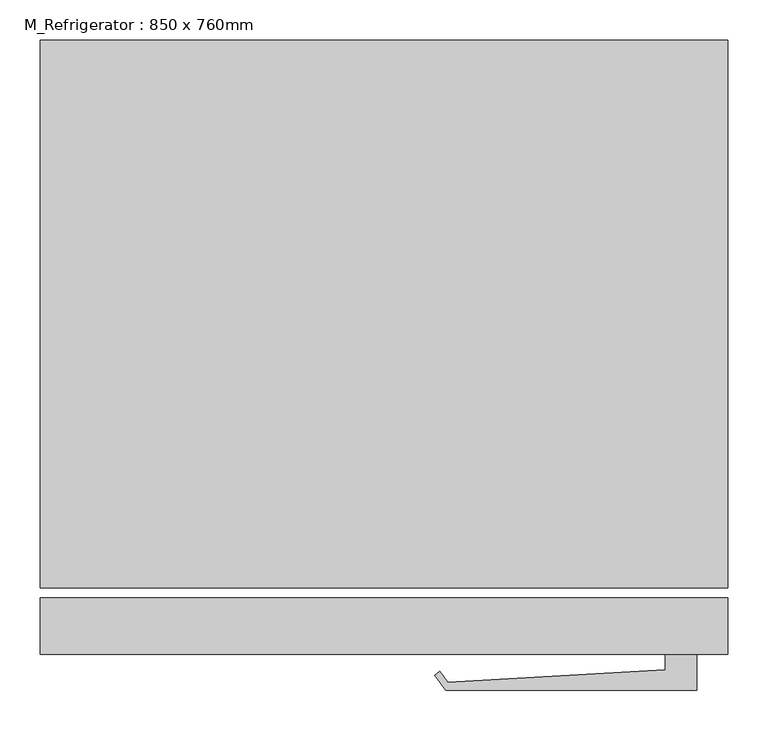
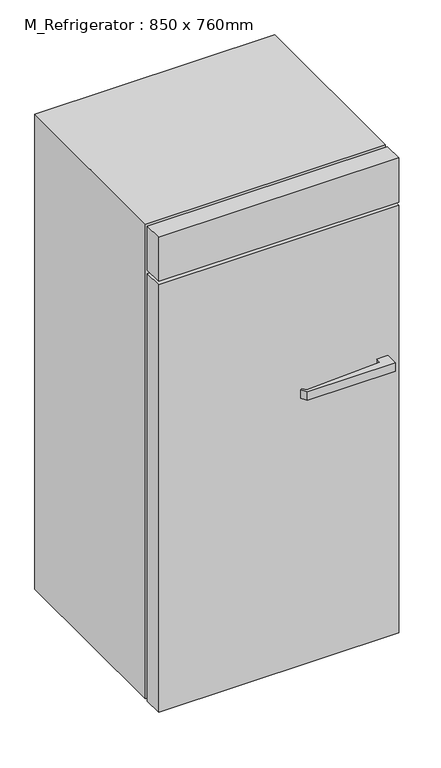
"""IFC4 building model written with IfcOpenShell, lengths in millimetres: electric appliance geometry, M_Refrigerator : 850 x 760mm."""

from ifc_helpers import new_model, si_unit, point, frame, frame_2d, origin, origin_with_axes, place, context, project, spatial, polyline, circle_curve, trimmed, segment, composite_curve, outline, extrude, source, transform, mapped, element, save


def m_refrigerator_850_x_760mm_174fd30e(model_context):
    return source(origin(), model_context, "Body", "SweptSolid", [
        extrude(outline(polyline([(333.0988574, -458.1036861), (22.3988574, -458.1036861), (8.7240737, -439.5368406), (15.2273026, -434.7471068), (25.1756383, -448.2543926), (293.9242419, -433.0358618), (293.9242419, -413.7849098), (333.0988574, -413.7849098), (333.0988574, -458.1036861)])), frame((0.0, 0.0, 1071.927792), z_axis=(0.0, 0.0, 1.0), x_axis=(1.0, 0.0, 0.0)), (0.0, 0.0, 1.0), 31.75),
        extrude(outline(composite_curve([segment(trimmed(circle_curve(frame_2d((-396.2511426, 270.0150902)), 25.4), [point((-421.6511426, 270.0150902))], [point((-370.8511426, 270.0150902))], False, "CARTESIAN"), True, "CONTINUOUS"), segment(trimmed(circle_curve(frame_2d((-396.2511426, 270.0150902)), 25.4), [point((-370.8511426, 270.0150902))], [point((-421.6511426, 270.0150902))], False, "CARTESIAN"), True, "CONTINUOUS")], self_intersect=False)), origin_with_axes(), (0.0, 0.0, 1.0), 50.8),
        extrude(outline(composite_curve([segment(trimmed(circle_curve(frame_2d((288.6488574, 270.0150902)), 25.4), [point((263.2488574, 270.0150902))], [point((314.0488574, 270.0150902))], False, "CARTESIAN"), True, "CONTINUOUS"), segment(trimmed(circle_curve(frame_2d((288.6488574, 270.0150902)), 25.4), [point((314.0488574, 270.0150902))], [point((263.2488574, 270.0150902))], False, "CARTESIAN"), True, "CONTINUOUS")], self_intersect=False)), origin_with_axes(), (0.0, 0.0, 1.0), 50.8),
        extrude(outline(composite_curve([segment(trimmed(circle_curve(frame_2d((-396.2511426, -286.7849098)), 25.4), [point((-421.6511426, -286.7849098))], [point((-370.8511426, -286.7849098))], False, "CARTESIAN"), True, "CONTINUOUS"), segment(trimmed(circle_curve(frame_2d((-396.2511426, -286.7849098)), 25.4), [point((-370.8511426, -286.7849098))], [point((-421.6511426, -286.7849098))], False, "CARTESIAN"), True, "CONTINUOUS")], self_intersect=False)), origin_with_axes(), (0.0, 0.0, 1.0), 50.8),
        extrude(outline(composite_curve([segment(trimmed(circle_curve(frame_2d((288.6488574, -286.7849098)), 25.4), [point((263.2488574, -286.7849098))], [point((314.0488574, -286.7849098))], False, "CARTESIAN"), True, "CONTINUOUS"), segment(trimmed(circle_curve(frame_2d((288.6488574, -286.7849098)), 25.4), [point((314.0488574, -286.7849098))], [point((263.2488574, -286.7849098))], False, "CARTESIAN"), True, "CONTINUOUS")], self_intersect=False)), origin_with_axes(), (0.0, 0.0, 1.0), 50.8),
        extrude(outline(polyline([(371.1988574, -413.7849098), (-478.8011426, -413.7849098), (-478.8011426, -343.9349098), (371.1988574, -343.9349098), (371.1988574, -413.7849098)])), frame((0.0, 0.0, 50.8), z_axis=(0.0, 0.0, 1.0), x_axis=(1.0, 0.0, 0.0)), (0.0, 0.0, 1.0), 1601.4),
        extrude(outline(polyline([(371.1988574, -413.7849098), (-478.8011426, -413.7849098), (-478.8011426, -343.9349098), (371.1988574, -343.9349098), (371.1988574, -413.7849098)])), frame((0.0, 0.0, 1664.9), z_axis=(0.0, 0.0, 1.0), x_axis=(1.0, 0.0, 0.0)), (0.0, 0.0, 1.0), 165.1),
        extrude(outline(polyline([(345.7988574, 320.8150902), (-453.4011426, 320.8150902), (-453.4011426, 346.2150902), (345.7988574, 346.2150902), (345.7988574, 320.8150902)])), frame((0.0, 0.0, 152.4), z_axis=(0.0, 0.0, 1.0), x_axis=(1.0, 0.0, 0.0)), (0.0, 0.0, 1.0), 1652.2),
        extrude(outline(polyline([(1830.0, 371.1988574), (1830.0, -478.8011426), (50.8, -478.8011426), (50.8, 371.1988574), (1830.0, 371.1988574)]), holes=[polyline([(1626.8, 345.7988574), (431.8, 345.7988574), (431.8, -453.4011426), (1626.8, -453.4011426), (1626.8, 345.7988574)])]), frame((0.0, -331.2349098, 0.0), z_axis=(0.0, 1.0, 0.0), x_axis=(0.0, 0.0, 1.0)), (0.0, 0.0, 1.0), 677.45),
    ])


if __name__ == "__main__":
    model = new_model("IFC4")
    model_context = context("Model", 3, world=origin())
    ifc_project = project(units=[si_unit("LENGTHUNIT", "METRE", prefix="MILLI")], contexts=[model_context])
    site = spatial("IfcSite", under=ifc_project)
    building = spatial("IfcBuilding", under=site)
    placement = place(None, origin())
    m_refrigerator_850_x_760mm_shape = m_refrigerator_850_x_760mm_174fd30e(model_context)
    element("IfcElectricAppliance", 1, ObjectType="M_Refrigerator : 850 x 760mm", at=placement, inside=building, context=model_context, shape_type="MappedRepresentation", body=[
        mapped(m_refrigerator_850_x_760mm_shape, transform((0.0, 0.0, 0.0), x_axis=(1.0, 0.0, 0.0), y_axis=(0.0, 1.0, 0.0), z_axis=(0.0, 0.0, 1.0))),
    ])
    save(model, "model.ifc")
